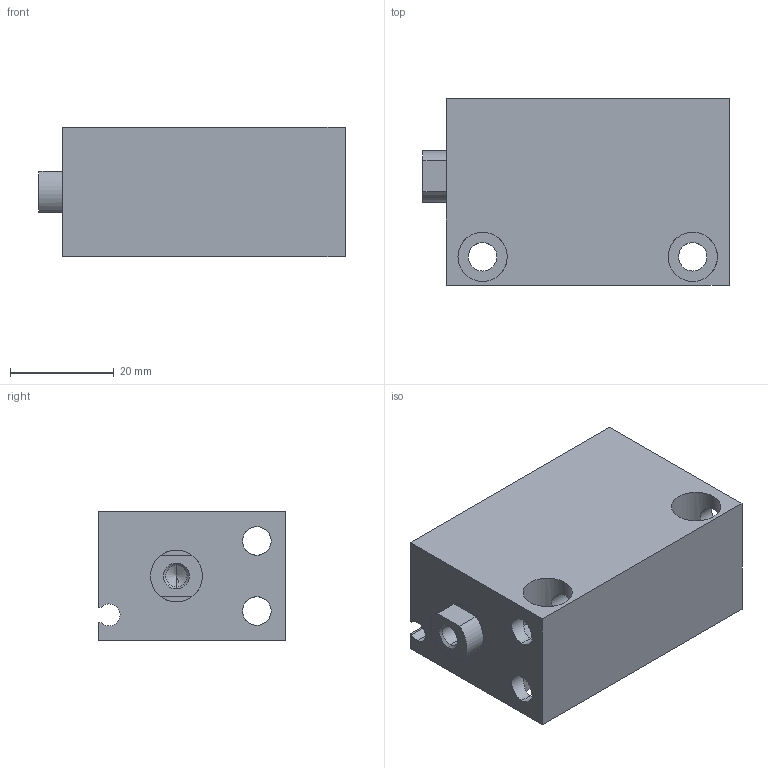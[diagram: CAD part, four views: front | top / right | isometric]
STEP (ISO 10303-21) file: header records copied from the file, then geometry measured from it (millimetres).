
FILE_DESCRIPTION (( 'STEP AP203' ), '1' );
FILE_NAME ('CLJB20-35.STEP', '2020-07-30T19:27:04', ( '' ), ( '' ), 'SwSTEP 2.0', 'SolidWorks 2019', '' );
FILE_SCHEMA (( 'CONFIG_CONTROL_DESIGN' ));
Length unit declared in the file: millimetre
Products named in the file (1): CLJB20-35
Bounding box: 59 x 36 x 25 mm (x, y, z)
Volume: 35516.9 mm3; surface area: 16475.4 mm2
Topology: 2 solids, 2 shells, 75 faces, 188 edges, 113 vertices
Faces by surface type: cylinder 41, plane 22, cone 12
Entity records: 3255 total; most frequent: CARTESIAN_POINT 1359, DIRECTION 394, ORIENTED_EDGE 364, EDGE_CURVE 182, AXIS2_PLACEMENT_3D 152, VERTEX_POINT 113, EDGE_LOOP 93, VECTOR 90
